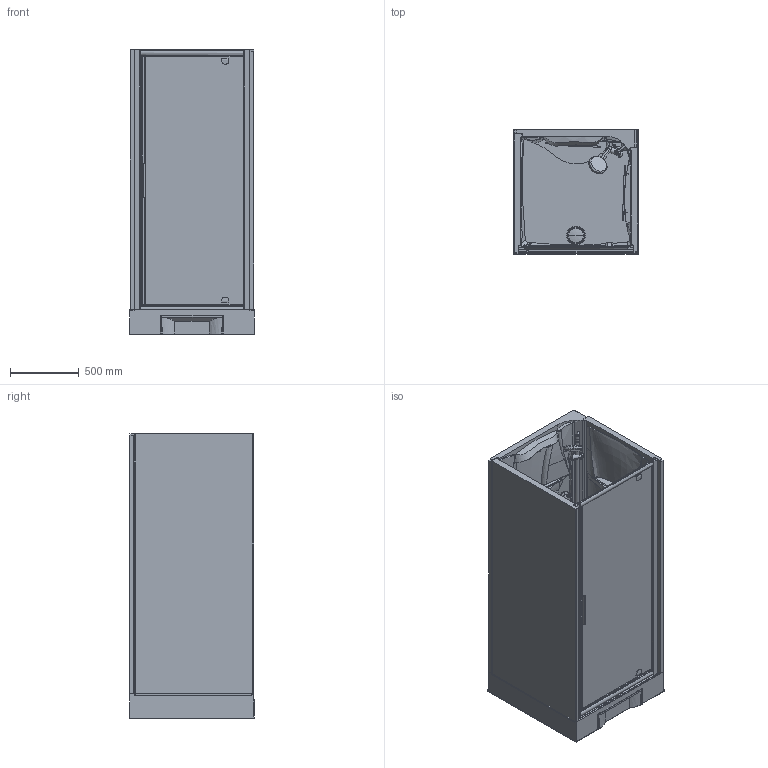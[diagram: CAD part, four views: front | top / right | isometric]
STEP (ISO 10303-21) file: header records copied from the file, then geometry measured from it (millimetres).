
FILE_DESCRIPTION(('STEP AP203'),'2;1');
FILE_NAME('NNH BI 90 M 19.stp','2015-09-04T14:59:02',(''),(''),'2014.1.117','THINKDESIGN','');
FILE_SCHEMA(('CONFIG_CONTROL_DESIGN'));
Bounding box: 904 x 907.51 x 2063.06 mm (x, y, z)
Volume: 255405386.1 mm3; surface area: 18303538.2 mm2
Topology: 36 solids, 36 shells, 722 faces, 1723 edges, 1081 vertices
Faces by surface type: bspline 423, plane 189, cylinder 110
Entity records: 105329 total; most frequent: CARTESIAN_POINT 91211, ORIENTED_EDGE 3406, DIRECTION 1873, EDGE_CURVE 1703, VERTEX_POINT 1077, EDGE_LOOP 746, FACE_OUTER_BOUND 720, ADVANCED_FACE 720
